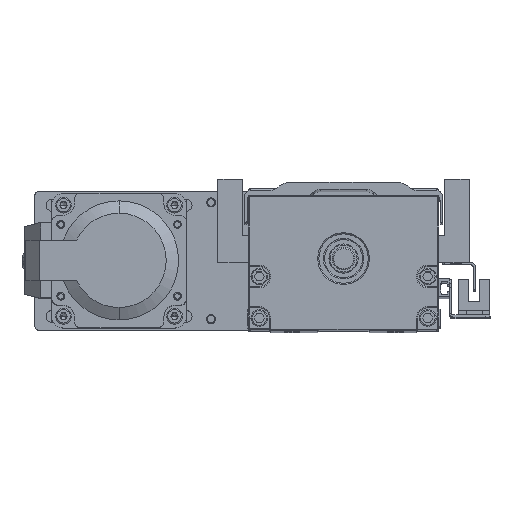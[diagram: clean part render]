
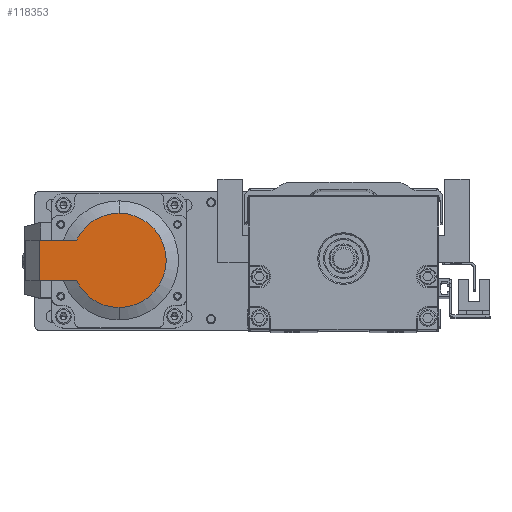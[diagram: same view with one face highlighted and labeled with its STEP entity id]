
A CAD part, top view. The second image highlights one B-rep face of the part: STEP entity #118353.
In plain terms, the highlighted planar face has unit normal (0, 0, 1).
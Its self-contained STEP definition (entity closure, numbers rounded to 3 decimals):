
#11431 = CARTESIAN_POINT ( 'NONE',  ( 104.751, 21.277, 500.168 ) ) ;
#11454 = EDGE_CURVE ( 'NONE', #12456, #60295, #122132, .T. ) ;
#11611 = ORIENTED_EDGE ( 'NONE', *, *, #112308, .T. ) ;
#12456 = VERTEX_POINT ( 'NONE', #102095 ) ;
#15370 = ORIENTED_EDGE ( 'NONE', *, *, #132991, .T. ) ;
#18577 = DIRECTION ( 'NONE',  ( 0., 1., 0. ) ) ;
#20147 = ORIENTED_EDGE ( 'NONE', *, *, #53306, .F. ) ;
#20156 = CARTESIAN_POINT ( 'NONE',  ( 85.777, 33.277, 500.168 ) ) ;
#21054 = VECTOR ( 'NONE', #111453, 1000. ) ;
#26794 = VERTEX_POINT ( 'NONE', #11431 ) ;
#27452 = VERTEX_POINT ( 'NONE', #94700 ) ;
#30029 = DIRECTION ( 'NONE',  ( 0., 0., 1. ) ) ;
#32064 = EDGE_CURVE ( 'NONE', #53887, #55384, #63012, .T. ) ;
#36782 = EDGE_CURVE ( 'NONE', #26794, #27452, #43547, .T. ) ;
#37695 = DIRECTION ( 'NONE',  ( 1., 0., 0. ) ) ;
#42216 = CARTESIAN_POINT ( 'NONE',  ( 85.777, -8.723, 500.168 ) ) ;
#43547 = LINE ( 'NONE', #84832, #130614 ) ;
#49049 = CIRCLE ( 'NONE', #91958, 21. ) ;
#50716 = DIRECTION ( 'NONE',  ( 1., 0., 0. ) ) ;
#53306 = EDGE_CURVE ( 'NONE', #27452, #60295, #113278, .T. ) ;
#53819 = CARTESIAN_POINT ( 'NONE',  ( 85.777, 12.277, 500.168 ) ) ;
#53887 = VERTEX_POINT ( 'NONE', #122055 ) ;
#55384 = VERTEX_POINT ( 'NONE', #42216 ) ;
#60295 = VERTEX_POINT ( 'NONE', #134525 ) ;
#63012 = CIRCLE ( 'NONE', #91146, 21. ) ;
#67014 = EDGE_LOOP ( 'NONE', ( #99969, #15370, #114060, #11611, #124656, #20147 ) ) ;
#69952 = VECTOR ( 'NONE', #37695, 1000. ) ;
#74611 = PLANE ( 'NONE',  #78444 ) ;
#78444 = AXIS2_PLACEMENT_3D ( 'NONE', #20156, #84803, #119823 ) ;
#78833 = FACE_OUTER_BOUND ( 'NONE', #67014, .T. ) ;
#84803 = DIRECTION ( 'NONE',  ( 0., 0., 1. ) ) ;
#84832 = CARTESIAN_POINT ( 'NONE',  ( 121.36, 21.277, 500.168 ) ) ;
#91146 = AXIS2_PLACEMENT_3D ( 'NONE', #139125, #108971, #98322 ) ;
#91213 = CARTESIAN_POINT ( 'NONE',  ( 121.36, 3.277, 500.168 ) ) ;
#91958 = AXIS2_PLACEMENT_3D ( 'NONE', #53819, #30029, #121418 ) ;
#94700 = CARTESIAN_POINT ( 'NONE',  ( 121.36, 21.277, 500.168 ) ) ;
#96290 = CARTESIAN_POINT ( 'NONE',  ( 85.777, 12.277, 500.168 ) ) ;
#96684 = CIRCLE ( 'NONE', #132606, 21. ) ;
#98322 = DIRECTION ( 'NONE',  ( 0., 1., 0. ) ) ;
#99969 = ORIENTED_EDGE ( 'NONE', *, *, #36782, .F. ) ;
#102095 = CARTESIAN_POINT ( 'NONE',  ( 104.751, 3.277, 500.168 ) ) ;
#108971 = DIRECTION ( 'NONE',  ( 0., 0., 1. ) ) ;
#111453 = DIRECTION ( 'NONE',  ( 0., -1., 0. ) ) ;
#112308 = EDGE_CURVE ( 'NONE', #55384, #12456, #96684, .T. ) ;
#113278 = LINE ( 'NONE', #143933, #21054 ) ;
#114060 = ORIENTED_EDGE ( 'NONE', *, *, #32064, .T. ) ;
#118353 = ADVANCED_FACE ( 'NONE', ( #78833 ), #74611, .T. ) ;
#119823 = DIRECTION ( 'NONE',  ( 0., 1., 0. ) ) ;
#121418 = DIRECTION ( 'NONE',  ( 0., 1., 0. ) ) ;
#122055 = CARTESIAN_POINT ( 'NONE',  ( 85.777, 33.277, 500.168 ) ) ;
#122132 = LINE ( 'NONE', #91213, #69952 ) ;
#124656 = ORIENTED_EDGE ( 'NONE', *, *, #11454, .T. ) ;
#128896 = DIRECTION ( 'NONE',  ( 0., 0., 1. ) ) ;
#130614 = VECTOR ( 'NONE', #50716, 1000. ) ;
#132606 = AXIS2_PLACEMENT_3D ( 'NONE', #96290, #128896, #18577 ) ;
#132991 = EDGE_CURVE ( 'NONE', #26794, #53887, #49049, .T. ) ;
#134525 = CARTESIAN_POINT ( 'NONE',  ( 121.36, 3.277, 500.168 ) ) ;
#139125 = CARTESIAN_POINT ( 'NONE',  ( 85.777, 12.277, 500.168 ) ) ;
#143933 = CARTESIAN_POINT ( 'NONE',  ( 121.36, 21.277, 500.168 ) ) ;
